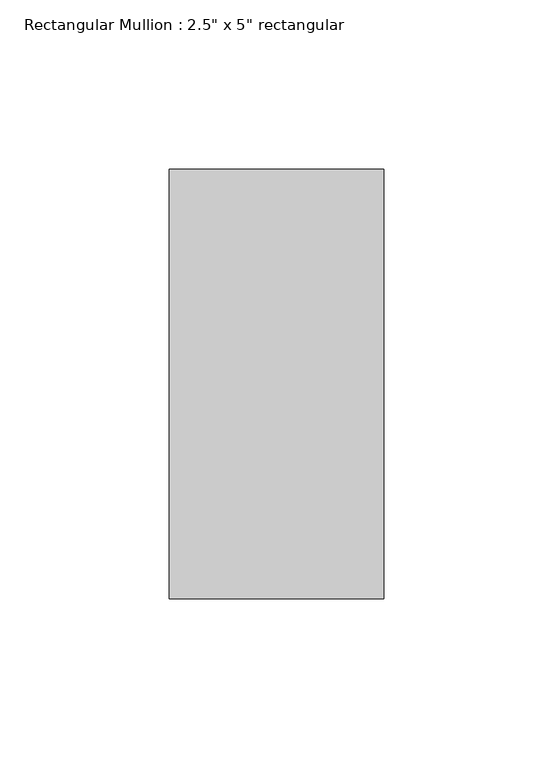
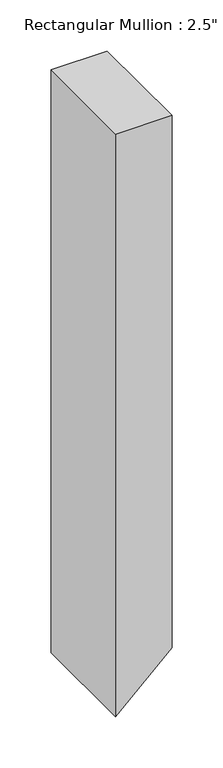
"""IFC4 building model written with IfcOpenShell, lengths in millimetres: member geometry."""

from ifc_helpers import new_model, si_unit, point, frame, frame_2d, origin, place, context, project, spatial, polyline, circle_curve, trimmed, segment, composite_curve, outline, extrude, source, transform, mapped, element, save


def member_caa35c07(model_context):
    return source(origin(), model_context, "Body", "SweptSolid", [
        extrude(outline(composite_curve([segment(polyline([(0.0, 31.75), (0.0, -31.75), (-696.6337415, -31.75)]), True, "CONTINUOUS"), segment(trimmed(circle_curve(frame_2d((609.6, -1219.2)), 1765.3), [point((-696.6337415, -31.75))], [point((-635.9553731, 31.75))], False, "CARTESIAN"), True, "CONTINUOUS"), segment(polyline([(-635.9553731, 31.75), (0.0, 31.75)]), True, "CONTINUOUS")], self_intersect=False)), frame((0.0, -63.5, 0.0), z_axis=(0.0, 1.0, 0.0), x_axis=(0.0, 0.0, 1.0)), (0.0, 0.0, 1.0), 127.0),
    ])


if __name__ == "__main__":
    model = new_model("IFC4")
    model_context = context("Model", 3, world=origin())
    ifc_project = project(units=[si_unit("LENGTHUNIT", "METRE", prefix="MILLI")], contexts=[model_context])
    site = spatial("IfcSite", under=ifc_project)
    building = spatial("IfcBuilding", under=site)
    placement = place(None, origin())
    member_shape = member_caa35c07(model_context)
    element("IfcMember", 1, ObjectType="Rectangular Mullion : 2.5\" x 5\" rectangular", at=placement, inside=building, context=model_context, shape_type="MappedRepresentation", body=[
        mapped(member_shape, transform((0.0, 0.0, 0.0), x_axis=(1.0, 0.0, 0.0), y_axis=(0.0, 1.0, 0.0), z_axis=(0.0, 0.0, 1.0))),
    ])
    save(model, "model.ifc")
